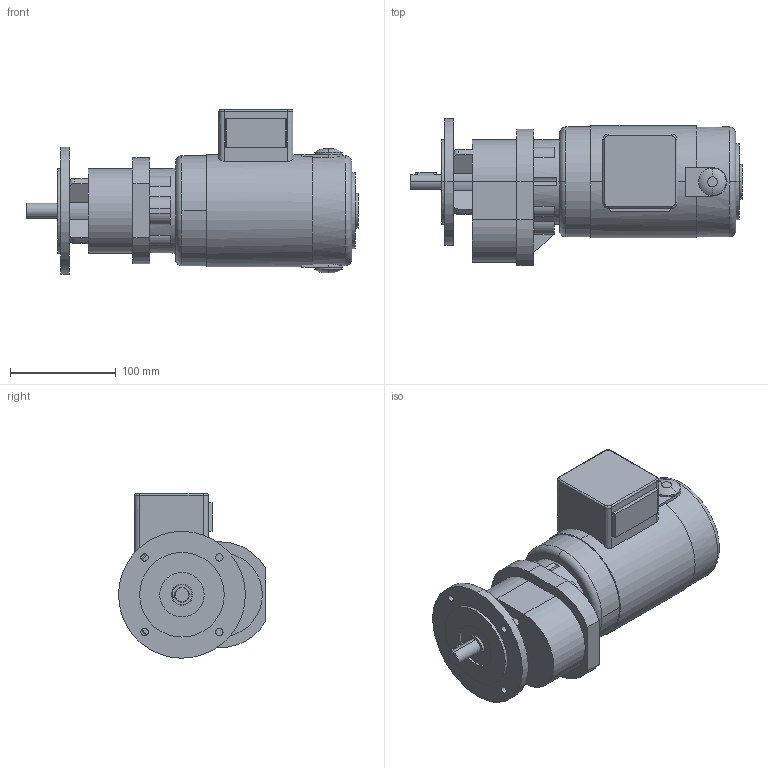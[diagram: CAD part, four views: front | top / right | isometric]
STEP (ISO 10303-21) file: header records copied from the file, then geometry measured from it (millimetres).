
FILE_DESCRIPTION(('OneSpaceDesigner STEP Export'),'2;1');
FILE_NAME('KGG61-62_SF30_N.stp','2008-08-21T11:17:04',(''),(''),'OneSpace Designer STEP processor (Jan. 2003) for AP214(CD)(Solid Model)','OneSpace Designer 12.01D 09-Jul-2004 (C) CoCreate Software GmbH','');
FILE_SCHEMA(('AUTOMOTIVE_DESIGN_CC2 {1 2 10303 214 -1 1 5 1}'));
Length unit declared in the file: millimetre
Products named in the file (2): KGG61-62_SF30_N
Assembly tree (1 placements, depth 2):
  KGG61-62_SF30_N
    KGG61-62_SF30_N
Bounding box: 314 x 139 x 155.5 mm (x, y, z)
Volume: 2495990.8 mm3; surface area: 154286.7 mm2
Topology: 1 solids, 1 shells, 152 faces, 385 edges, 250 vertices
Faces by surface type: plane 63, cylinder 61, torus 12, bspline 8, extrusion 4, cone 4
Entity records: 6843 total; most frequent: CARTESIAN_POINT 3465, ORIENTED_EDGE 770, DIRECTION 598, EDGE_CURVE 385, VERTEX_POINT 250, AXIS2_PLACEMENT_3D 207, VECTOR 184, LINE 180
